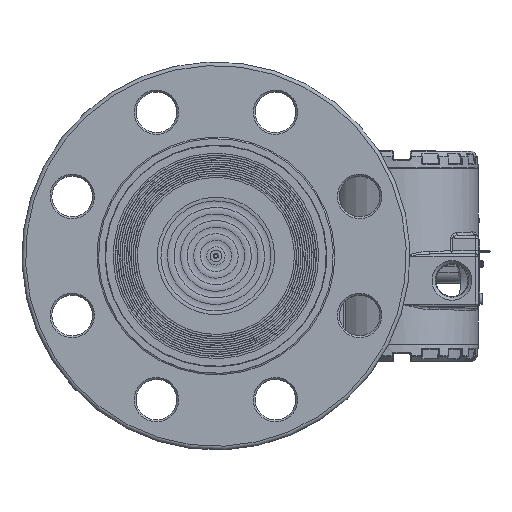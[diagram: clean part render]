
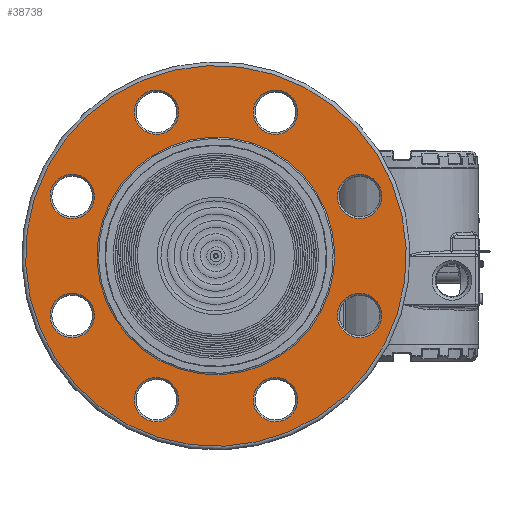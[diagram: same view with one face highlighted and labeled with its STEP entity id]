
A CAD part, top view. The second image highlights one B-rep face of the part: STEP entity #38738.
In plain terms, the highlighted planar face has unit normal (0, 0, 1) as drawn and (-1, 0, 0) by its records, which use the part's own axes.
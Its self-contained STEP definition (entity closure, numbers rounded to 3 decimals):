
#754=FACE_BOUND('',#6586,.T.);
#755=FACE_BOUND('',#6587,.T.);
#756=FACE_BOUND('',#6588,.T.);
#757=FACE_BOUND('',#6589,.T.);
#758=FACE_BOUND('',#6590,.T.);
#759=FACE_BOUND('',#6591,.T.);
#760=FACE_BOUND('',#6592,.T.);
#761=FACE_BOUND('',#6593,.T.);
#762=FACE_BOUND('',#6594,.T.);
#2734=PLANE('',#43035);
#3942=FACE_OUTER_BOUND('',#6585,.T.);
#6585=EDGE_LOOP('',(#29614,#29615));
#6586=EDGE_LOOP('',(#29616));
#6587=EDGE_LOOP('',(#29617));
#6588=EDGE_LOOP('',(#29618));
#6589=EDGE_LOOP('',(#29619));
#6590=EDGE_LOOP('',(#29620,#29621));
#6591=EDGE_LOOP('',(#29622));
#6592=EDGE_LOOP('',(#29623));
#6593=EDGE_LOOP('',(#29624));
#6594=EDGE_LOOP('',(#29625));
#12419=CIRCLE('',#43034,12.);
#12420=CIRCLE('',#43036,103.);
#12421=CIRCLE('',#43037,103.);
#12422=CIRCLE('',#43038,12.);
#12423=CIRCLE('',#43039,12.);
#12424=CIRCLE('',#43040,12.);
#12425=CIRCLE('',#43041,12.);
#12426=CIRCLE('',#43042,64.3);
#12427=CIRCLE('',#43043,64.3);
#12428=CIRCLE('',#43044,12.);
#12429=CIRCLE('',#43045,12.);
#12430=CIRCLE('',#43046,12.);
#16909=VERTEX_POINT('',#69061);
#16910=VERTEX_POINT('',#69065);
#16911=VERTEX_POINT('',#69066);
#16912=VERTEX_POINT('',#69069);
#16913=VERTEX_POINT('',#69071);
#16914=VERTEX_POINT('',#69073);
#16915=VERTEX_POINT('',#69075);
#16916=VERTEX_POINT('',#69077);
#16917=VERTEX_POINT('',#69078);
#16918=VERTEX_POINT('',#69081);
#16919=VERTEX_POINT('',#69083);
#16920=VERTEX_POINT('',#69085);
#21385=EDGE_CURVE('',#16909,#16909,#12419,.T.);
#21387=EDGE_CURVE('',#16910,#16911,#12420,.T.);
#21388=EDGE_CURVE('',#16911,#16910,#12421,.T.);
#21389=EDGE_CURVE('',#16912,#16912,#12422,.T.);
#21390=EDGE_CURVE('',#16913,#16913,#12423,.T.);
#21391=EDGE_CURVE('',#16914,#16914,#12424,.T.);
#21392=EDGE_CURVE('',#16915,#16915,#12425,.T.);
#21393=EDGE_CURVE('',#16916,#16917,#12426,.T.);
#21394=EDGE_CURVE('',#16917,#16916,#12427,.T.);
#21395=EDGE_CURVE('',#16918,#16918,#12428,.T.);
#21396=EDGE_CURVE('',#16919,#16919,#12429,.T.);
#21397=EDGE_CURVE('',#16920,#16920,#12430,.T.);
#29614=ORIENTED_EDGE('',*,*,#21387,.F.);
#29615=ORIENTED_EDGE('',*,*,#21388,.F.);
#29616=ORIENTED_EDGE('',*,*,#21389,.F.);
#29617=ORIENTED_EDGE('',*,*,#21390,.F.);
#29618=ORIENTED_EDGE('',*,*,#21391,.F.);
#29619=ORIENTED_EDGE('',*,*,#21392,.F.);
#29620=ORIENTED_EDGE('',*,*,#21393,.T.);
#29621=ORIENTED_EDGE('',*,*,#21394,.T.);
#29622=ORIENTED_EDGE('',*,*,#21395,.F.);
#29623=ORIENTED_EDGE('',*,*,#21396,.F.);
#29624=ORIENTED_EDGE('',*,*,#21397,.F.);
#29625=ORIENTED_EDGE('',*,*,#21385,.F.);
#38738=ADVANCED_FACE('',(#3942,#754,#755,#756,#757,#758,#759,#760,#761,
#762),#2734,.T.);
#43034=AXIS2_PLACEMENT_3D('',#69062,#50955,#50956);
#43035=AXIS2_PLACEMENT_3D('',#69064,#50958,#50959);
#43036=AXIS2_PLACEMENT_3D('',#69067,#50960,#50961);
#43037=AXIS2_PLACEMENT_3D('',#69068,#50962,#50963);
#43038=AXIS2_PLACEMENT_3D('',#69070,#50964,#50965);
#43039=AXIS2_PLACEMENT_3D('',#69072,#50966,#50967);
#43040=AXIS2_PLACEMENT_3D('',#69074,#50968,#50969);
#43041=AXIS2_PLACEMENT_3D('',#69076,#50970,#50971);
#43042=AXIS2_PLACEMENT_3D('',#69079,#50972,#50973);
#43043=AXIS2_PLACEMENT_3D('',#69080,#50974,#50975);
#43044=AXIS2_PLACEMENT_3D('',#69082,#50976,#50977);
#43045=AXIS2_PLACEMENT_3D('',#69084,#50978,#50979);
#43046=AXIS2_PLACEMENT_3D('',#69086,#50980,#50981);
#50955=DIRECTION('center_axis',(-1.,0.,0.));
#50956=DIRECTION('ref_axis',(0.,-0.707,-0.707));
#50958=DIRECTION('center_axis',(-1.,0.,0.));
#50959=DIRECTION('ref_axis',(0.,0.,1.));
#50960=DIRECTION('center_axis',(1.,0.,0.));
#50961=DIRECTION('ref_axis',(0.,1.,0.));
#50962=DIRECTION('center_axis',(1.,0.,0.));
#50963=DIRECTION('ref_axis',(0.,1.,0.));
#50964=DIRECTION('center_axis',(-1.,0.,0.));
#50965=DIRECTION('ref_axis',(0.,-1.,0.));
#50966=DIRECTION('center_axis',(-1.,0.,0.));
#50967=DIRECTION('ref_axis',(0.,0.,1.));
#50968=DIRECTION('center_axis',(-1.,0.,0.));
#50969=DIRECTION('ref_axis',(0.,1.,0.));
#50970=DIRECTION('center_axis',(-1.,0.,0.));
#50971=DIRECTION('ref_axis',(0.,0.,-1.));
#50972=DIRECTION('center_axis',(1.,0.,0.));
#50973=DIRECTION('ref_axis',(0.,1.,0.));
#50974=DIRECTION('center_axis',(1.,0.,0.));
#50975=DIRECTION('ref_axis',(0.,1.,0.));
#50976=DIRECTION('center_axis',(-1.,0.,0.));
#50977=DIRECTION('ref_axis',(0.,0.707,-0.707));
#50978=DIRECTION('center_axis',(-1.,0.,0.));
#50979=DIRECTION('ref_axis',(0.,0.707,0.707));
#50980=DIRECTION('center_axis',(-1.,0.,0.));
#50981=DIRECTION('ref_axis',(0.,-0.707,0.707));
#69061=CARTESIAN_POINT('',(7.,67.988,67.988));
#69062=CARTESIAN_POINT('Origin',(7.,59.503,59.503));
#69064=CARTESIAN_POINT('Origin',(7.,83.65,0.));
#69065=CARTESIAN_POINT('',(7.,103.,0.));
#69066=CARTESIAN_POINT('',(7.,0.,103.));
#69067=CARTESIAN_POINT('Origin',(7.,0.,0.));
#69068=CARTESIAN_POINT('Origin',(7.,0.,0.));
#69069=CARTESIAN_POINT('',(7.,96.15,0.));
#69070=CARTESIAN_POINT('Origin',(7.,84.15,0.));
#69071=CARTESIAN_POINT('',(7.,0.,-96.15));
#69072=CARTESIAN_POINT('Origin',(7.,0.,-84.15));
#69073=CARTESIAN_POINT('',(7.,-96.15,0.));
#69074=CARTESIAN_POINT('Origin',(7.,-84.15,0.));
#69075=CARTESIAN_POINT('',(7.,0.,96.15));
#69076=CARTESIAN_POINT('Origin',(7.,0.,84.15));
#69077=CARTESIAN_POINT('',(7.,64.3,0.));
#69078=CARTESIAN_POINT('',(7.,0.,64.3));
#69079=CARTESIAN_POINT('Origin',(7.,0.,0.));
#69080=CARTESIAN_POINT('Origin',(7.,0.,0.));
#69081=CARTESIAN_POINT('',(7.,-67.988,67.988));
#69082=CARTESIAN_POINT('Origin',(7.,-59.503,59.503));
#69083=CARTESIAN_POINT('',(7.,-67.988,-67.988));
#69084=CARTESIAN_POINT('Origin',(7.,-59.503,-59.503));
#69085=CARTESIAN_POINT('',(7.,67.988,-67.988));
#69086=CARTESIAN_POINT('Origin',(7.,59.503,-59.503));
